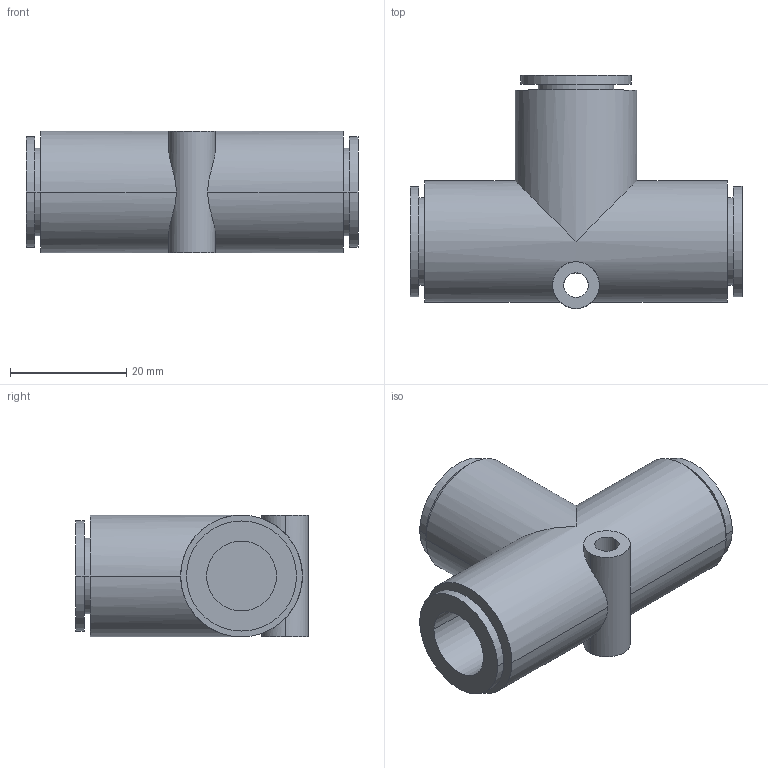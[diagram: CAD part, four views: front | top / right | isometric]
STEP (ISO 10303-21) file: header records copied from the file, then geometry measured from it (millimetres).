
FILE_DESCRIPTION( ( '' ), '1' );
FILE_NAME( 'G:/SMC狟婥/KQ2T12-10A.stp', '2023-03-07T03:33:22', ( '' ), ( '' ), ' ', ' ', ' ' );
FILE_SCHEMA( ( 'CONFIG_CONTROL_DESIGN' ) );
Length unit declared in the file: millimetre
Products named in the file (1): 1
Bounding box: 57 x 40 x 20.9 mm (x, y, z)
Volume: 18948.1 mm3; surface area: 9121 mm2
Topology: 1 solids, 1 shells, 41 faces, 90 edges, 60 vertices
Faces by surface type: cylinder 27, plane 14
Entity records: 1320 total; most frequent: CARTESIAN_POINT 318, DIRECTION 222, ORIENTED_EDGE 180, AXIS2_PLACEMENT_3D 96, EDGE_CURVE 90, VERTEX_POINT 60, EDGE_LOOP 52, CIRCLE 50
